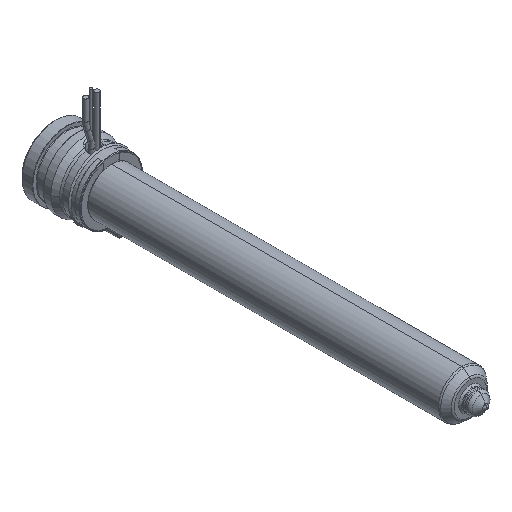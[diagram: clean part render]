
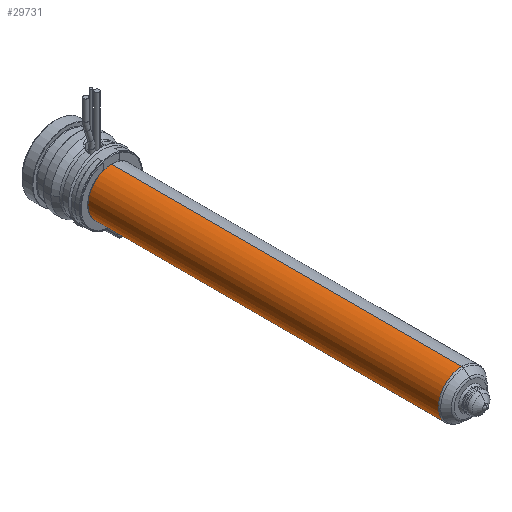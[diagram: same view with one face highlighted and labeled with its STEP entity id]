
A CAD part, isometric view. The second image highlights one B-rep face of the part: STEP entity #29731.
In plain terms, the highlighted cylindrical face has radius 9 mm (diameter 18 mm), a partial arc.
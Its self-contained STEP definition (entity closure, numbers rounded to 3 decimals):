
#29184=CARTESIAN_POINT('',(0.,-155.836,0.));
#29185=DIRECTION('',(0.,-1.,0.));
#29186=DIRECTION('',(0.,0.,1.));
#29187=AXIS2_PLACEMENT_3D('',#29184,#29185,#29186);
#29192=CARTESIAN_POINT('',(0.,-22.,0.));
#29193=DIRECTION('',(0.,-1.,0.));
#29194=DIRECTION('',(0.,0.,1.));
#29195=AXIS2_PLACEMENT_3D('',#29192,#29193,#29194);
#29200=DIRECTION('',(0.,-1.,0.));
#29201=VECTOR('',#29200,133.836);
#29202=CARTESIAN_POINT('',(0.,-22.,9.));
#29203=LINE('',#29202,#29201);
#29215=DIRECTION('',(0.,-1.,0.));
#29216=VECTOR('',#29215,133.836);
#29217=CARTESIAN_POINT('',(0.,-22.,-9.));
#29218=LINE('',#29217,#29216);
#29412=CARTESIAN_POINT('',(0.,-22.,9.));
#29413=CARTESIAN_POINT('',(0.,-155.836,9.));
#29414=VERTEX_POINT('',#29412);
#29415=VERTEX_POINT('',#29413);
#29434=CARTESIAN_POINT('',(0.,-22.,-9.));
#29435=CARTESIAN_POINT('',(0.,-155.836,-9.));
#29436=VERTEX_POINT('',#29434);
#29437=VERTEX_POINT('',#29435);
#29717=CARTESIAN_POINT('',(0.,-10.625,0.));
#29718=DIRECTION('',(0.,-1.,0.));
#29719=DIRECTION('',(0.,0.,1.));
#29720=AXIS2_PLACEMENT_3D('',#29717,#29718,#29719);
#29721=CYLINDRICAL_SURFACE('',#29720,9.);
#29723=ORIENTED_EDGE('',*,*,#29722,.T.);
#29724=ORIENTED_EDGE('',*,*,#29712,.T.);
#29726=ORIENTED_EDGE('',*,*,#29725,.F.);
#29728=ORIENTED_EDGE('',*,*,#29727,.F.);
#29729=EDGE_LOOP('',(#29723,#29724,#29726,#29728));
#29730=FACE_OUTER_BOUND('',#29729,.F.);
#29731=ADVANCED_FACE('',(#29730),#29721,.T.);
#29188=CIRCLE('',#29187,9.);
#29196=CIRCLE('',#29195,9.);
#29712=EDGE_CURVE('',#29415,#29437,#29188,.T.);
#29722=EDGE_CURVE('',#29414,#29415,#29203,.T.);
#29725=EDGE_CURVE('',#29436,#29437,#29218,.T.);
#29727=EDGE_CURVE('',#29414,#29436,#29196,.T.);
